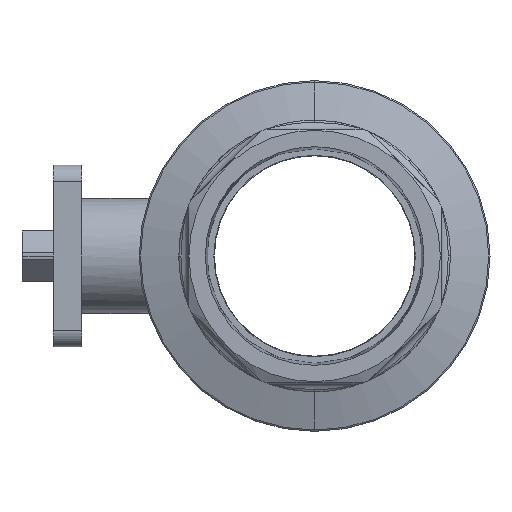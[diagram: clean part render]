
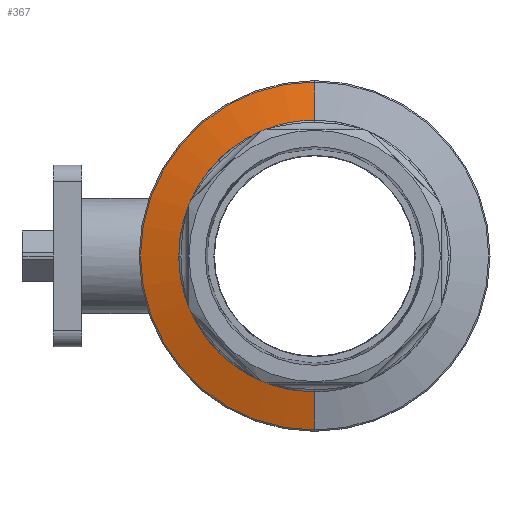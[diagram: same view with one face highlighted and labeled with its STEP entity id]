
A CAD part, left-side view. The second image highlights one B-rep face of the part: STEP entity #367.
In plain terms, the highlighted conical face has half-angle 73.379 degrees and reference radius 37.465 mm.
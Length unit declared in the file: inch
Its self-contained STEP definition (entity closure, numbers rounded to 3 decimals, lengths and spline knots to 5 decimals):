
#81 = VERTEX_POINT ( 'NONE', #12849 ) ;
#367 = ADVANCED_FACE ( 'NONE', ( #9018 ), #12352, .T. ) ;
#511 = AXIS2_PLACEMENT_3D ( 'NONE', #8693, #4777, #6895 ) ;
#692 = EDGE_CURVE ( 'NONE', #9936, #5696, #987, .T. ) ;
#711 = DIRECTION ( 'NONE',  ( 0.286, 0., 0.958 ) ) ;
#987 = CIRCLE ( 'NONE', #8395, 1.89072 ) ;
#1076 = VECTOR ( 'NONE', #10260, 39.37008 ) ;
#1732 = VERTEX_POINT ( 'NONE', #6584 ) ;
#2152 = CARTESIAN_POINT ( 'NONE',  ( -1.601, 0., -1.475 ) ) ;
#2545 = EDGE_CURVE ( 'NONE', #81, #1732, #5588, .T. ) ;
#2793 = AXIS2_PLACEMENT_3D ( 'NONE', #7948, #7012, #5033 ) ;
#2902 = EDGE_CURVE ( 'NONE', #81, #9936, #10604, .T. ) ;
#3400 = EDGE_LOOP ( 'NONE', ( #4470, #7432, #9588, #8602 ) ) ;
#4038 = DIRECTION ( 'NONE',  ( -1., 0., 0. ) ) ;
#4104 = CARTESIAN_POINT ( 'NONE',  ( -1.4769, 0., 0. ) ) ;
#4108 = VECTOR ( 'NONE', #711, 39.37008 ) ;
#4470 = ORIENTED_EDGE ( 'NONE', *, *, #2545, .F. ) ;
#4777 = DIRECTION ( 'NONE',  ( -1., 0., 0. ) ) ;
#5033 = DIRECTION ( 'NONE',  ( 0., 0., -1. ) ) ;
#5169 = DIRECTION ( 'NONE',  ( 0., 0., 1. ) ) ;
#5588 = CIRCLE ( 'NONE', #511, 1.475 ) ;
#5696 = VERTEX_POINT ( 'NONE', #12134 ) ;
#6584 = CARTESIAN_POINT ( 'NONE',  ( -1.601, 0., -1.475 ) ) ;
#6732 = CARTESIAN_POINT ( 'NONE',  ( -1.601, 0., 1.475 ) ) ;
#6895 = DIRECTION ( 'NONE',  ( 0., 0., 1. ) ) ;
#7012 = DIRECTION ( 'NONE',  ( 1., 0., 0. ) ) ;
#7432 = ORIENTED_EDGE ( 'NONE', *, *, #2902, .T. ) ;
#7948 = CARTESIAN_POINT ( 'NONE',  ( -1.601, 0., 0. ) ) ;
#7992 = CARTESIAN_POINT ( 'NONE',  ( -1.4769, 0., 1.89072 ) ) ;
#8395 = AXIS2_PLACEMENT_3D ( 'NONE', #4104, #4038, #5169 ) ;
#8602 = ORIENTED_EDGE ( 'NONE', *, *, #8711, .F. ) ;
#8693 = CARTESIAN_POINT ( 'NONE',  ( -1.601, 0., 0. ) ) ;
#8711 = EDGE_CURVE ( 'NONE', #1732, #5696, #9004, .T. ) ;
#9004 = LINE ( 'NONE', #2152, #1076 ) ;
#9018 = FACE_OUTER_BOUND ( 'NONE', #3400, .T. ) ;
#9588 = ORIENTED_EDGE ( 'NONE', *, *, #692, .T. ) ;
#9936 = VERTEX_POINT ( 'NONE', #7992 ) ;
#10260 = DIRECTION ( 'NONE',  ( 0.286, 0., -0.958 ) ) ;
#10604 = LINE ( 'NONE', #6732, #4108 ) ;
#12134 = CARTESIAN_POINT ( 'NONE',  ( -1.4769, 0., -1.89072 ) ) ;
#12352 = CONICAL_SURFACE ( 'NONE', #2793, 1.475, 1.281 ) ;
#12849 = CARTESIAN_POINT ( 'NONE',  ( -1.601, 0., 1.475 ) ) ;
